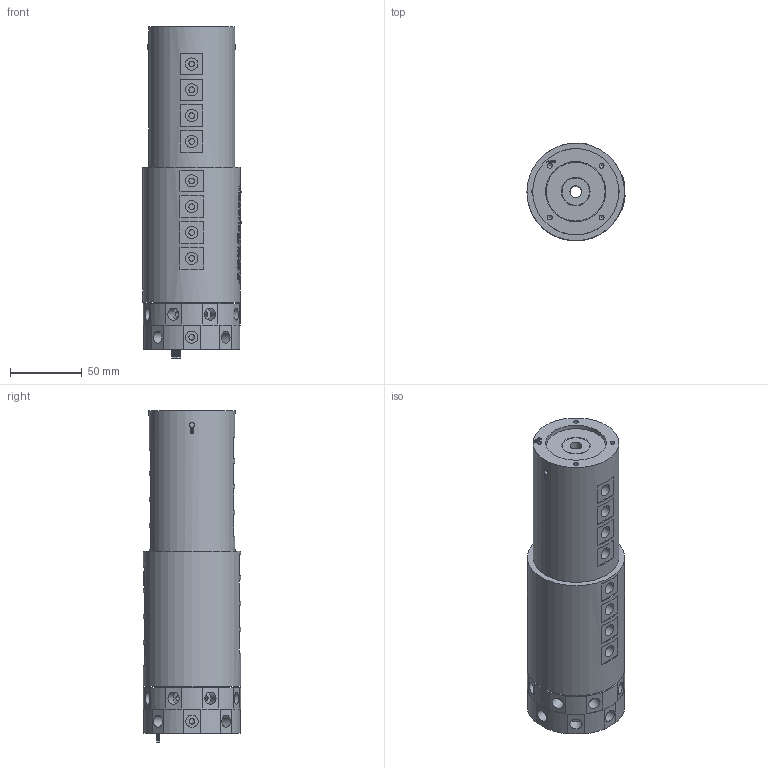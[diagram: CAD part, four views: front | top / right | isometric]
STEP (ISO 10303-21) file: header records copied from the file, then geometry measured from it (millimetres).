
FILE_DESCRIPTION(/* description */ (''),/* implementation_level */ '2;1');
FILE_NAME(/* name */ 'YQ1601.stp',/* time_stamp */ '2025-02-14T11:06:55+08:00',/* author */ (''),/* organization */ (''),/* preprocessor_version */ 'ST-DEVELOPER v16.7',/* originating_system */ 'SIEMENS PLM Software NX 12.0',/* authorisation */ '');
FILE_SCHEMA (('AUTOMOTIVE_DESIGN { 1 0 10303 214 3 1 1 1 }'));
Products named in the file (1): HX0540E8A2D8nfnk
Bounding box: 68.39 x 68 x 231.5 mm (x, y, z)
Volume: 689928.2 mm3; surface area: 88656.5 mm2
Topology: 1 solids, 10 shells, 1535 faces, 4019 edges, 2723 vertices
Faces by surface type: extrusion 673, plane 611, cylinder 181, bspline 55, cone 15
Full cylindrical faces by diameter (mm): 3.4 x14, 4 x56, 4.1 x16, 4.2 x16, 8 x1, 8.5 x32, 18 x1, 19 x1, 31 x1, 41 x1, 42 x1, 47 x1, 60 x1, 68 x2
Entity records: 55903 total; most frequent: CARTESIAN_POINT 24295, ORIENTED_EDGE 7442, DIRECTION 3891, EDGE_CURVE 3721, B_SPLINE_CURVE_WITH_KNOTS 3302, VERTEX_POINT 2606, EDGE_LOOP 1921, ADVANCED_FACE 1532
